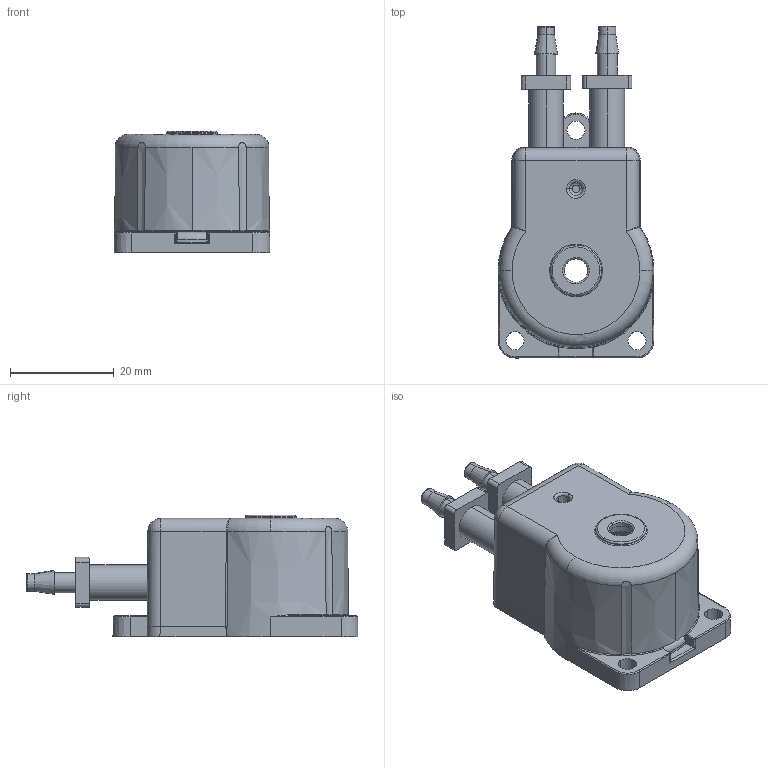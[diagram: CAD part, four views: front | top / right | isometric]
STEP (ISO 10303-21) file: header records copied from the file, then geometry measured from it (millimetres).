
FILE_DESCRIPTION (( 'STEP AP203' ), '1' );
FILE_NAME ('100 series pump head only.STEP', '2020-10-22T13:08:32', ( '' ), ( '' ), 'SwSTEP 2.0', 'SolidWorks 2017', '' );
FILE_SCHEMA (( 'CONFIG_CONTROL_DESIGN' ));
Length unit declared in the file: millimetre
Products named in the file (8): 1.6mm tube; 100 series pump head only; 52384-2 120 COVER_1; 52384-2 120 series 0.8 tube grip_1; micro 4; 52384-1 120 BASE_1; 52384-2 120 series 1.6 tube grip_1; 52417-1 120 series assembly_1
Assembly tree (9 placements, depth 3):
  100 series pump head only
    52417-1 120 series assembly_1
      52384-2 120 COVER_1
      52384-1 120 BASE_1
      52384-2 120 series 1.6 tube grip_1
      52384-2 120 series 0.8 tube grip_1
    1.6mm tube  x2
    micro 4  x2
Bounding box: 30 x 63.95 x 23.4 mm (x, y, z)
Volume: 12685.3 mm3; surface area: 12628.8 mm2
Topology: 8 solids, 8 shells, 594 faces, 1521 edges, 951 vertices
Faces by surface type: cylinder 199, plane 183, bspline 93, torus 72, cone 37, sphere 10
Entity records: 22831 total; most frequent: CARTESIAN_POINT 9072, ORIENTED_EDGE 2886, DIRECTION 2484, EDGE_CURVE 1443, AXIS2_PLACEMENT_3D 931, VERTEX_POINT 907, VECTOR 622, LINE 622
